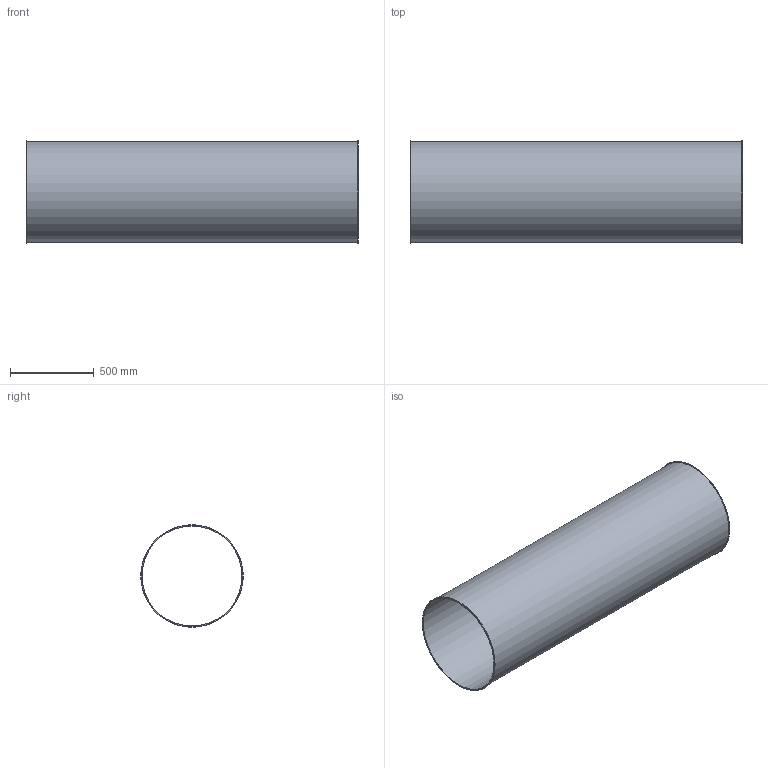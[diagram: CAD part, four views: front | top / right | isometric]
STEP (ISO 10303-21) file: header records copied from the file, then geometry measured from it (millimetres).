
FILE_DESCRIPTION((''),'2;1');
FILE_NAME('U:\Wolfgang\Marcel-3D\fertig\Kapitel 1\6021001.stp','2010-05-31T12:41:03',('TK2'),(''),'Autodesk Inventor 2010','Autodesk Inventor 2010','');
FILE_SCHEMA(('AUTOMOTIVE_DESIGN { 1 0 10303 214 1 1 1 1 }'));
Length unit declared in the file: millimetre
Products named in the file (1): 6021001
Bounding box: 1986 x 614 x 614 mm (x, y, z)
Volume: 7532885.7 mm3; surface area: 7540576.4 mm2
Topology: 1 solids, 1 shells, 8 faces, 12 edges, 8 vertices
Faces by surface type: cylinder 4, plane 4
Full cylindrical faces by diameter (mm): 598 x1, 602 x1, 614 x2
Entity records: 194 total; most frequent: DIRECTION 34, CARTESIAN_POINT 25, AXIS2_PLACEMENT_3D 17, ORIENTED_EDGE 16, EDGE_LOOP 16, VERTEX_POINT 8, CIRCLE 8, EDGE_CURVE 8
